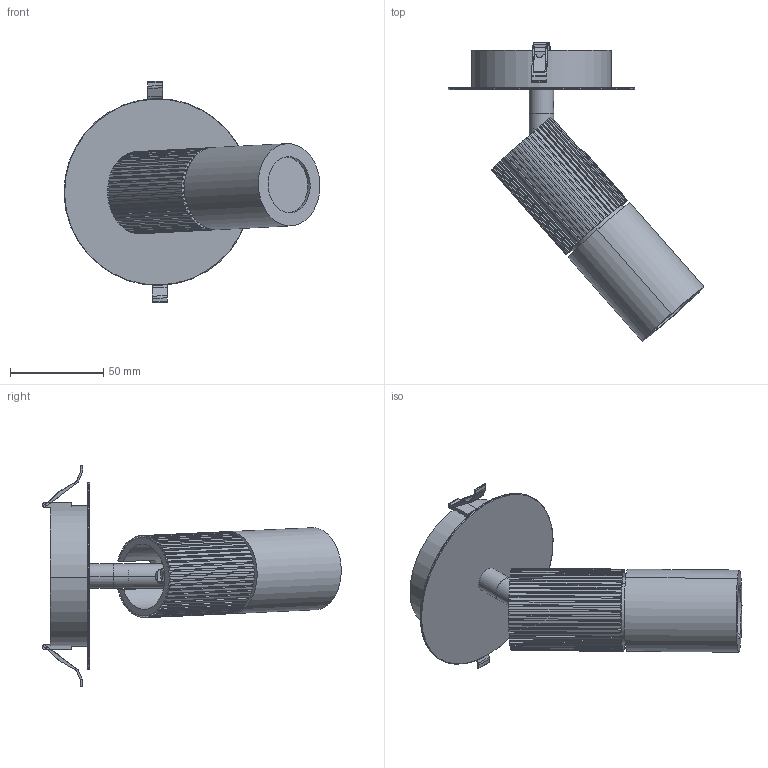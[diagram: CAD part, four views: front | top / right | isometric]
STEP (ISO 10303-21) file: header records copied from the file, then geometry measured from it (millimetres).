
FILE_DESCRIPTION (( 'STEP AP203' ), '1' );
FILE_NAME ('HARA_empotrable.STEP', '2026-03-10T11:57:41', ( '' ), ( '' ), 'SwSTEP 2.0', 'SolidWorks 2023', '' );
FILE_SCHEMA (( 'CONFIG_CONTROL_DESIGN' ));
Length unit declared in the file: millimetre
Products named in the file (6): ROTULA tija; HARA_empotrable; EP1279; ROTULA; HARA_cabezal; Ensamblaje_florón_rótula
Assembly tree (5 placements, depth 3):
  HARA_empotrable
    Ensamblaje_florón_rótula
      EP1279
      ROTULA tija
      ROTULA
    HARA_cabezal
Bounding box: 136.89 x 159.76 x 118.48 mm (x, y, z)
Volume: 176215.9 mm3; surface area: 66266.4 mm2
Topology: 17 solids, 17 shells, 516 faces, 1386 edges, 913 vertices
Faces by surface type: plane 280, cylinder 180, cone 32, bspline 8, torus 8, sphere 8
Entity records: 23909 total; most frequent: CARTESIAN_POINT 10172, ORIENTED_EDGE 2770, DIRECTION 2737, EDGE_CURVE 1385, AXIS2_PLACEMENT_3D 934, VERTEX_POINT 913, VECTOR 869, LINE 869
